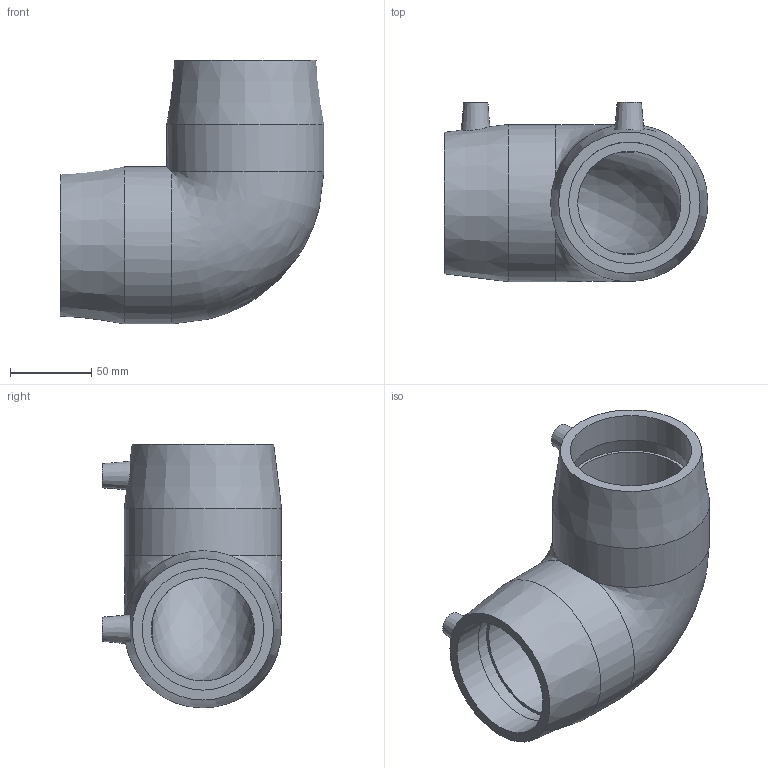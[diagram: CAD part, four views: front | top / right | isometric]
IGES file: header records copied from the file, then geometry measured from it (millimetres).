
Global section: file name: 490504075.ipt; native system: Autodesk Inventor 2015; preprocessor: unknown; author: KIM; date: 20171106.093636; units: millimetre
Bounding box: 162.85 x 110.5 x 162.85 mm (x, y, z)
Volume: 661757.7 mm3; surface area: 118971.2 mm2
Topology: 1 solids, 1 shells, 30 faces, 68 edges, 46 vertices
Faces by surface type: plane 12, revolution 9, cylinder 4, cone 4, bspline 1
Full cylindrical faces by diameter (mm): 4 x2, 97 x2
